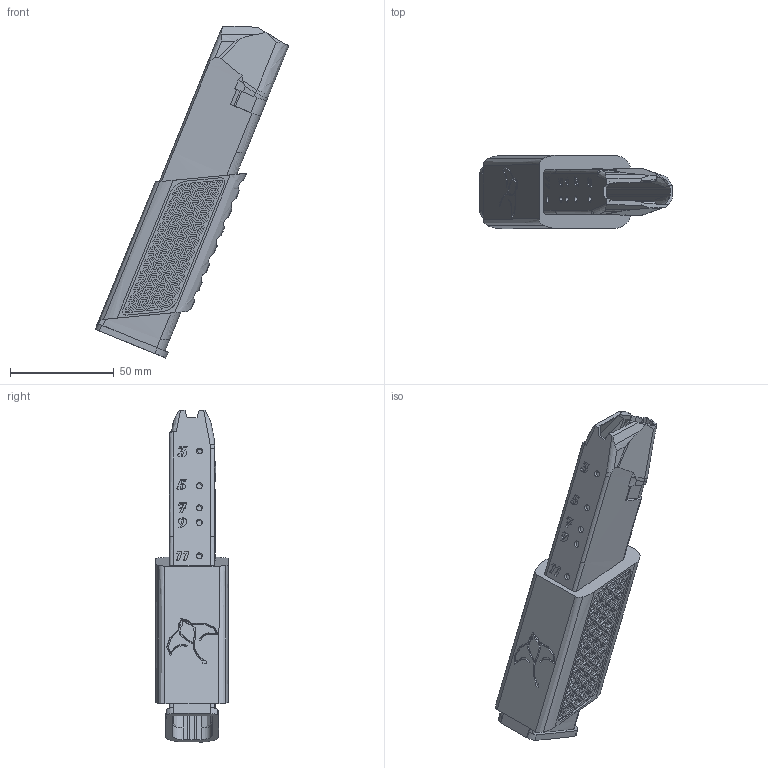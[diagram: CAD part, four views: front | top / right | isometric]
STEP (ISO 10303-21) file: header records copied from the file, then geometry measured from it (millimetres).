
FILE_DESCRIPTION(/* description */ (''),/* implementation_level */ '2;1');
FILE_NAME(/* name */ 'D:/Pew Pews/FGC-9_MkII_Stingray_Edition/Stingray Edition/.step files/4 - Magazine/Magazine body.step',/* time_stamp */ '2022-05-12T10:53:44-06:00',/* author */ (''),/* organization */ (''),/* preprocessor_version */ 'ST-DEVELOPER v18.1',/* originating_system */ 'Autodesk Translation Framework v10.10.0.1391',/* authorisation */ '');
FILE_SCHEMA (('AUTOMOTIVE_DESIGN { 1 0 10303 214 3 1 1 }'));
Length unit declared in the file: millimetre
Products named in the file (1): Magazine body
Bounding box: 93.36 x 35.13 x 160.04 mm (x, y, z)
Volume: 70306.6 mm3; surface area: 40678.4 mm2
Topology: 1 solids, 9 shells, 2261 faces, 6099 edges, 4054 vertices
Faces by surface type: plane 2044, bspline 135, cylinder 80, cone 2
Full cylindrical faces by diameter (mm): 3 x5
Entity records: 96380 total; most frequent: CARTESIAN_POINT 43551, ORIENTED_EDGE 12198, DIRECTION 8587, EDGE_CURVE 6099, VERTEX_POINT 4054, LINE 4003, VECTOR 4003, EDGE_LOOP 2475
